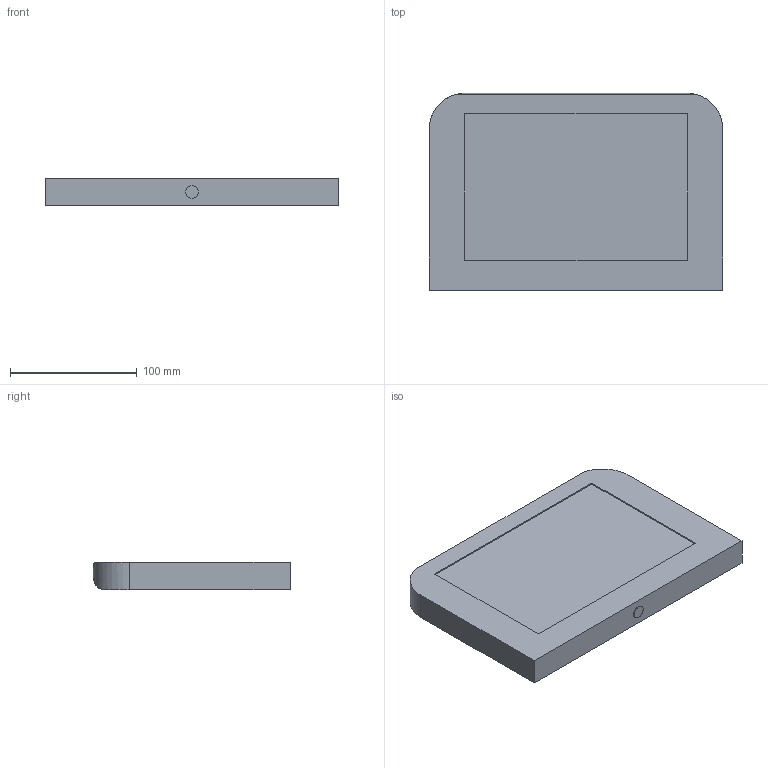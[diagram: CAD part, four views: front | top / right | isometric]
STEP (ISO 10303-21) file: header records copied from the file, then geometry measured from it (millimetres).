
FILE_DESCRIPTION (( 'STEP AP214' ), '1' );
FILE_NAME ('xo_screen_main_v1.STEP', '2009-11-01T02:46:00', ( '' ), ( '' ), 'SwSTEP 2.0', 'SolidWorks 2009', '' );
FILE_SCHEMA (( 'AUTOMOTIVE_DESIGN' ));
Length unit declared in the file: millimetre
Products named in the file (1): xo_screen_main_v1
Bounding box: 231.78 x 156.07 x 21.58 mm (x, y, z)
Volume: 746218.6 mm3; surface area: 87437.8 mm2
Topology: 2 solids, 2 shells, 20 faces, 45 edges, 30 vertices
Faces by surface type: plane 13, cylinder 6, bspline 1
Entity records: 789 total; most frequent: CARTESIAN_POINT 161, ORIENTED_EDGE 90, DIRECTION 87, EDGE_CURVE 45, VECTOR 31, LINE 31, VERTEX_POINT 30, AXIS2_PLACEMENT_3D 28
